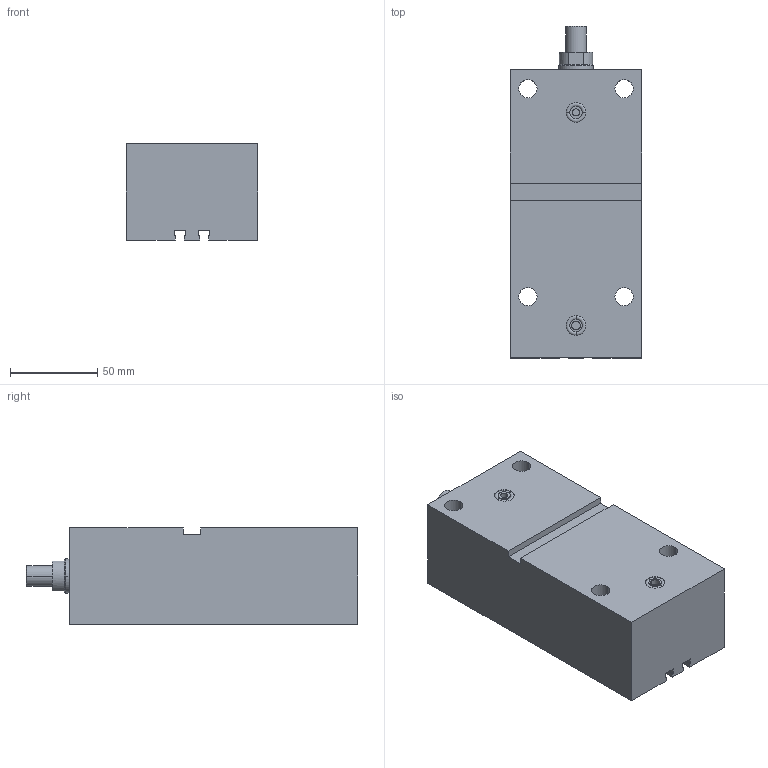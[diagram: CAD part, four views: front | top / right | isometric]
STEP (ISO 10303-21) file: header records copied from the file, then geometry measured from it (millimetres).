
FILE_DESCRIPTION (( 'STEP AP203' ), '1' );
FILE_NAME ('GERMA_Blockzylinder_703-032-100-A.STEP', '2016-07-23T08:45:15', ( '' ), ( '' ), 'SwSTEP 2.0', 'SolidWorks 2015', '' );
FILE_SCHEMA (( 'CONFIG_CONTROL_DESIGN' ));
Length unit declared in the file: millimetre
Products named in the file (3): Kolben_MT 70x-032_Kolben_MT DU.32-Hub100-AG; GH-700-032_GH-703-032-100; GERMA_Blockzylinder_703-032-100-A
Assembly tree (2 placements, depth 2):
  GERMA_Blockzylinder_703-032-100-A
    GH-700-032_GH-703-032-100
    Kolben_MT 70x-032_Kolben_MT DU.32-Hub100-AG
Bounding box: 75 x 190 x 55 mm (x, y, z)
Volume: 602869.9 mm3; surface area: 90502.2 mm2
Topology: 2 solids, 2 shells, 100 faces, 232 edges, 145 vertices
Faces by surface type: plane 43, cylinder 41, cone 12, torus 4
Entity records: 3142 total; most frequent: DIRECTION 535, CARTESIAN_POINT 478, ORIENTED_EDGE 456, EDGE_CURVE 228, AXIS2_PLACEMENT_3D 202, VERTEX_POINT 145, LINE 131, VECTOR 131
